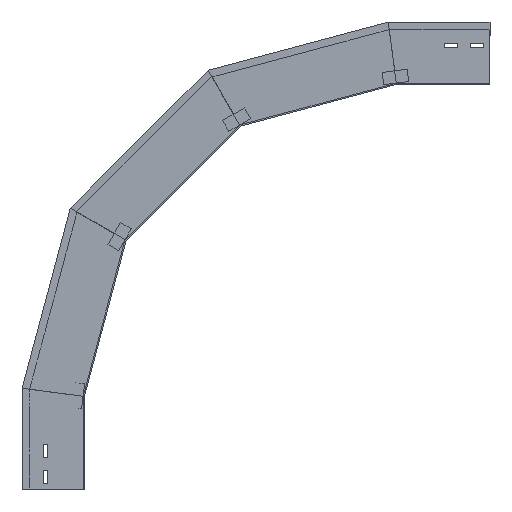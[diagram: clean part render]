
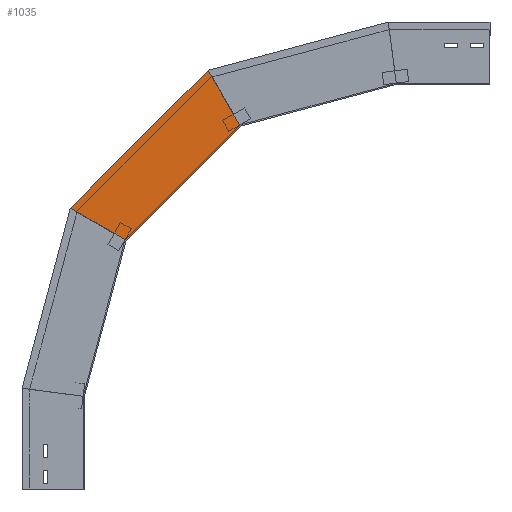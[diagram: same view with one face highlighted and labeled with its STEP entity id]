
A CAD part, left-side view. The second image highlights one B-rep face of the part: STEP entity #1035.
In plain terms, the highlighted planar face has unit normal (-1, 0, 0) as drawn and (1, 0, 0) by its records, which use the part's own axes.
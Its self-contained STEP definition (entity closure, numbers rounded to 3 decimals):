
#45 = VERTEX_POINT ( 'NONE', #1586 ) ;
#71 = EDGE_CURVE ( 'NONE', #1310, #45, #885, .T. ) ;
#78 = PLANE ( 'NONE',  #521 ) ;
#170 = LINE ( 'NONE', #749, #699 ) ;
#228 = EDGE_CURVE ( 'NONE', #1251, #1829, #1630, .T. ) ;
#262 = EDGE_LOOP ( 'NONE', ( #847, #791, #1788, #1073 ) ) ;
#315 = CARTESIAN_POINT ( 'NONE',  ( 0., 22.623, 451.939 ) ) ;
#333 = CARTESIAN_POINT ( 'NONE',  ( 0., -46.122, 379.263 ) ) ;
#496 = EDGE_CURVE ( 'NONE', #1310, #1251, #170, .T. ) ;
#507 = VECTOR ( 'NONE', #742, 1000. ) ;
#521 = AXIS2_PLACEMENT_3D ( 'NONE', #1254, #577, #1109 ) ;
#577 = DIRECTION ( 'NONE',  ( 1., 0., 0. ) ) ;
#612 = CARTESIAN_POINT ( 'NONE',  ( 0., -67.034, 400.175 ) ) ;
#618 = CARTESIAN_POINT ( 'NONE',  ( 0., -250.175, 583.315 ) ) ;
#662 = DIRECTION ( 'NONE',  ( 0., -0.707, 0.707 ) ) ;
#699 = VECTOR ( 'NONE', #1159, 1000. ) ;
#734 = LINE ( 'NONE', #1739, #1275 ) ;
#742 = DIRECTION ( 'NONE',  ( 0., -0.707, 0.707 ) ) ;
#749 = CARTESIAN_POINT ( 'NONE',  ( 0., -128.356, 364.771 ) ) ;
#791 = ORIENTED_EDGE ( 'NONE', *, *, #1661, .T. ) ;
#847 = ORIENTED_EDGE ( 'NONE', *, *, #71, .T. ) ;
#870 = CARTESIAN_POINT ( 'NONE',  ( 0., 24.589, 449.973 ) ) ;
#885 = LINE ( 'NONE', #870, #507 ) ;
#1035 = ADVANCED_FACE ( 'NONE', ( #1772 ), #78, .T. ) ;
#1042 = DIRECTION ( 'NONE',  ( 0., -0.5, -0.866 ) ) ;
#1073 = ORIENTED_EDGE ( 'NONE', *, *, #496, .F. ) ;
#1109 = DIRECTION ( 'NONE',  ( 0., 0., -1. ) ) ;
#1112 = VECTOR ( 'NONE', #662, 1000. ) ;
#1159 = DIRECTION ( 'NONE',  ( 0., -0.866, -0.5 ) ) ;
#1251 = VERTEX_POINT ( 'NONE', #612 ) ;
#1254 = CARTESIAN_POINT ( 'NONE',  ( 0., -46.122, 379.263 ) ) ;
#1275 = VECTOR ( 'NONE', #1042, 1000. ) ;
#1310 = VERTEX_POINT ( 'NONE', #315 ) ;
#1586 = CARTESIAN_POINT ( 'NONE',  ( 0., -198.411, 672.973 ) ) ;
#1630 = LINE ( 'NONE', #333, #1112 ) ;
#1661 = EDGE_CURVE ( 'NONE', #45, #1829, #734, .T. ) ;
#1739 = CARTESIAN_POINT ( 'NONE',  ( 0., -287.519, 518.633 ) ) ;
#1772 = FACE_OUTER_BOUND ( 'NONE', #262, .T. ) ;
#1788 = ORIENTED_EDGE ( 'NONE', *, *, #228, .F. ) ;
#1829 = VERTEX_POINT ( 'NONE', #618 ) ;
